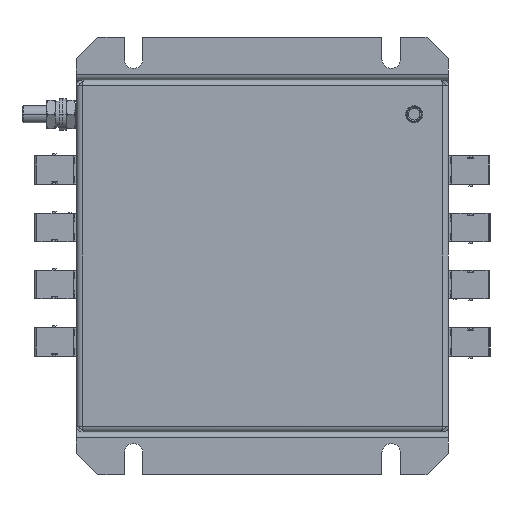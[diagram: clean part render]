
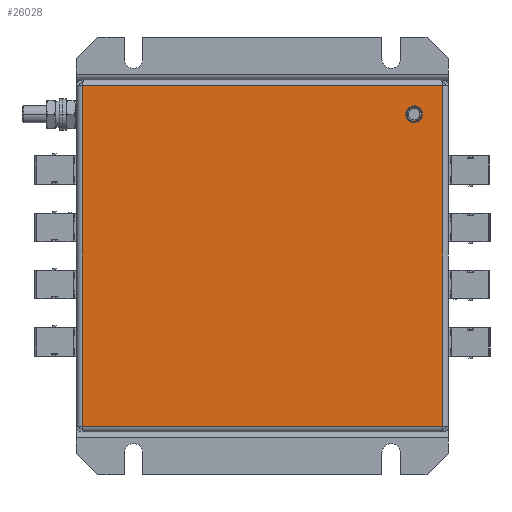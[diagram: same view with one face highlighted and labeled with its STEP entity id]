
A CAD part, front view. The second image highlights one B-rep face of the part: STEP entity #26028.
In plain terms, the highlighted planar face has unit normal (0, -1, 0).
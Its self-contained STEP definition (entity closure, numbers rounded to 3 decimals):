
#61 = EDGE_CURVE ( 'NONE', #18691, #17169, #9902, .T. ) ;
#835 = DIRECTION ( 'NONE',  ( 0., 0., -1. ) ) ;
#1317 = FACE_BOUND ( 'NONE', #3435, .T. ) ;
#1755 = EDGE_CURVE ( 'NONE', #17169, #31661, #30811, .T. ) ;
#1922 = CARTESIAN_POINT ( 'NONE',  ( 118., 0., -12. ) ) ;
#2061 = EDGE_LOOP ( 'NONE', ( #12437, #36827, #35178, #14045 ) ) ;
#2227 = CARTESIAN_POINT ( 'NONE',  ( 33.5, 0., -121. ) ) ;
#2868 = EDGE_CURVE ( 'NONE', #22427, #18691, #19212, .T. ) ;
#3435 = EDGE_LOOP ( 'NONE', ( #25749, #5874 ) ) ;
#4046 = CARTESIAN_POINT ( 'NONE',  ( 2., 0., -30.75 ) ) ;
#5874 = ORIENTED_EDGE ( 'NONE', *, *, #14837, .T. ) ;
#7363 = PLANE ( 'NONE',  #10618 ) ;
#7739 = CIRCLE ( 'NONE', #26353, 2. ) ;
#7937 = CARTESIAN_POINT ( 'NONE',  ( 96.5, 0., -2. ) ) ;
#9902 = LINE ( 'NONE', #4046, #15761 ) ;
#10421 = DIRECTION ( 'NONE',  ( -1., 0., 0. ) ) ;
#10618 = AXIS2_PLACEMENT_3D ( 'NONE', #22575, #14315, #34398 ) ;
#10752 = CARTESIAN_POINT ( 'NONE',  ( 128., 0., -92.25 ) ) ;
#11175 = CARTESIAN_POINT ( 'NONE',  ( 2., 0., -121. ) ) ;
#12437 = ORIENTED_EDGE ( 'NONE', *, *, #1755, .T. ) ;
#12823 = FACE_OUTER_BOUND ( 'NONE', #2061, .T. ) ;
#13929 = DIRECTION ( 'NONE',  ( 0., 0., 1. ) ) ;
#14045 = ORIENTED_EDGE ( 'NONE', *, *, #61, .T. ) ;
#14219 = VECTOR ( 'NONE', #13929, 1000. ) ;
#14315 = DIRECTION ( 'NONE',  ( 0., 1., 0. ) ) ;
#14837 = EDGE_CURVE ( 'NONE', #32156, #29301, #28104, .T. ) ;
#15761 = VECTOR ( 'NONE', #835, 1000. ) ;
#17169 = VERTEX_POINT ( 'NONE', #11175 ) ;
#18361 = CARTESIAN_POINT ( 'NONE',  ( 128., 0., -121. ) ) ;
#18691 = VERTEX_POINT ( 'NONE', #19571 ) ;
#19212 = LINE ( 'NONE', #7937, #25405 ) ;
#19571 = CARTESIAN_POINT ( 'NONE',  ( 2., 0., -2. ) ) ;
#19586 = DIRECTION ( 'NONE',  ( -1., 0., 0. ) ) ;
#21332 = CARTESIAN_POINT ( 'NONE',  ( 116., 0., -12. ) ) ;
#21381 = CARTESIAN_POINT ( 'NONE',  ( 118., 0., -12. ) ) ;
#22427 = VERTEX_POINT ( 'NONE', #34799 ) ;
#22575 = CARTESIAN_POINT ( 'NONE',  ( 65., 0., -61.5 ) ) ;
#24967 = VECTOR ( 'NONE', #25195, 1000. ) ;
#25102 = AXIS2_PLACEMENT_3D ( 'NONE', #1922, #32981, #10421 ) ;
#25195 = DIRECTION ( 'NONE',  ( 1., 0., 0. ) ) ;
#25405 = VECTOR ( 'NONE', #19586, 1000. ) ;
#25749 = ORIENTED_EDGE ( 'NONE', *, *, #30072, .T. ) ;
#26028 = ADVANCED_FACE ( 'NONE', ( #1317, #12823 ), #7363, .F. ) ;
#26353 = AXIS2_PLACEMENT_3D ( 'NONE', #21381, #33213, #30034 ) ;
#26784 = CARTESIAN_POINT ( 'NONE',  ( 120., 0., -12. ) ) ;
#28104 = CIRCLE ( 'NONE', #25102, 2. ) ;
#29301 = VERTEX_POINT ( 'NONE', #21332 ) ;
#30034 = DIRECTION ( 'NONE',  ( -1., 0., 0. ) ) ;
#30072 = EDGE_CURVE ( 'NONE', #29301, #32156, #7739, .T. ) ;
#30811 = LINE ( 'NONE', #2227, #24967 ) ;
#31661 = VERTEX_POINT ( 'NONE', #18361 ) ;
#32156 = VERTEX_POINT ( 'NONE', #26784 ) ;
#32981 = DIRECTION ( 'NONE',  ( 0., 1., 0. ) ) ;
#33213 = DIRECTION ( 'NONE',  ( 0., 1., 0. ) ) ;
#33842 = LINE ( 'NONE', #10752, #14219 ) ;
#34398 = DIRECTION ( 'NONE',  ( 1., 0., 0. ) ) ;
#34799 = CARTESIAN_POINT ( 'NONE',  ( 128., 0., -2. ) ) ;
#35178 = ORIENTED_EDGE ( 'NONE', *, *, #2868, .T. ) ;
#36827 = ORIENTED_EDGE ( 'NONE', *, *, #37035, .T. ) ;
#37035 = EDGE_CURVE ( 'NONE', #31661, #22427, #33842, .T. ) ;
